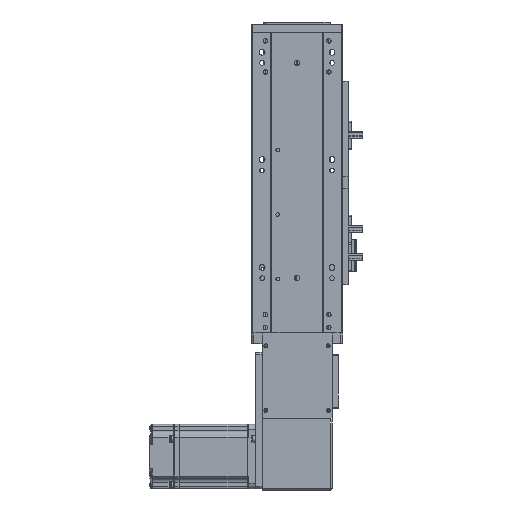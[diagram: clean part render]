
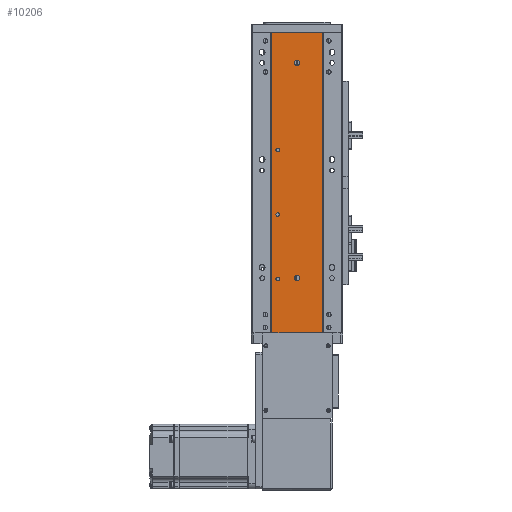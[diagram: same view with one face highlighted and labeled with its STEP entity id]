
A CAD part, front view. The second image highlights one B-rep face of the part: STEP entity #10206.
In plain terms, the highlighted planar face has unit normal (0, -1, 0).
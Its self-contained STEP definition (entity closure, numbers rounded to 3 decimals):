
#2369 = CARTESIAN_POINT ( 'NONE',  ( 0., 46.262, 279. ) ) ;
#2371 = DIRECTION ( 'NONE',  ( 1., 0., 0. ) ) ;
#2475 = CARTESIAN_POINT ( 'NONE',  ( 126.878, 46.262, 170. ) ) ;
#2484 = DIRECTION ( 'NONE',  ( 0., 0., 1. ) ) ;
#2497 = DIRECTION ( 'NONE',  ( 0., 1., 0. ) ) ;
#2539 = CARTESIAN_POINT ( 'NONE',  ( 144.878, 46.262, 251. ) ) ;
#2542 = DIRECTION ( 'NONE',  ( 0., 0., -1. ) ) ;
#2544 = DIRECTION ( 'NONE',  ( 0., -1., 0. ) ) ;
#2557 = CARTESIAN_POINT ( 'NONE',  ( 0., 46.262, 0. ) ) ;
#2593 = DIRECTION ( 'NONE',  ( 1., 0., 0. ) ) ;
#2624 = DIRECTION ( 'NONE',  ( 0., 1., 0. ) ) ;
#2626 = CARTESIAN_POINT ( 'NONE',  ( 126.878, 46.262, 110. ) ) ;
#2628 = DIRECTION ( 'NONE',  ( 0., 0., 1. ) ) ;
#2643 = DIRECTION ( 'NONE',  ( 0., 1., 0. ) ) ;
#2671 = CARTESIAN_POINT ( 'NONE',  ( 126.878, 46.262, 50. ) ) ;
#2677 = DIRECTION ( 'NONE',  ( 0., 0., 1. ) ) ;
#2694 = CARTESIAN_POINT ( 'NONE',  ( 168.171, 46.262, 279. ) ) ;
#2696 = DIRECTION ( 'NONE',  ( 0., 0., -1. ) ) ;
#2783 = DIRECTION ( 'NONE',  ( 0., -1., 0. ) ) ;
#2795 = DIRECTION ( 'NONE',  ( 0., 0., -1. ) ) ;
#2800 = CARTESIAN_POINT ( 'NONE',  ( 144.878, 46.262, 51. ) ) ;
#6717 = PLANE ( 'NONE',  #58703 ) ;
#7703 = LINE ( 'NONE', #2369, #7723 ) ;
#7723 = VECTOR ( 'NONE', #2371, 1000. ) ;
#7741 = CIRCLE ( 'NONE', #40030, 1.65 ) ;
#7795 = LINE ( 'NONE', #2557, #7825 ) ;
#7808 = CIRCLE ( 'NONE', #40034, 2.5 ) ;
#7825 = VECTOR ( 'NONE', #2593, 1000. ) ;
#7833 = CIRCLE ( 'NONE', #40094, 1.65 ) ;
#7863 = CIRCLE ( 'NONE', #40080, 1.65 ) ;
#7870 = VECTOR ( 'NONE', #2696, 1000. ) ;
#7913 = LINE ( 'NONE', #2694, #7870 ) ;
#7923 = LINE ( 'NONE', #22346, #7938 ) ;
#7938 = VECTOR ( 'NONE', #9920, 1000. ) ;
#7963 = CIRCLE ( 'NONE', #40071, 2.5 ) ;
#9920 = DIRECTION ( 'NONE',  ( 0., 0., -1. ) ) ;
#10206 = ADVANCED_FACE ( 'NONE', ( #29672, #29719, #29678, #29674, #29690, #29679 ), #6717, .F. ) ;
#17391 = DIRECTION ( 'NONE',  ( 0., 0., 1. ) ) ;
#18287 = EDGE_CURVE ( 'NONE', #45567, #45599, #31452, .T. ) ;
#18291 = EDGE_CURVE ( 'NONE', #45589, #45562, #31489, .T. ) ;
#18302 = EDGE_CURVE ( 'NONE', #45493, #45592, #31466, .T. ) ;
#18418 = EDGE_CURVE ( 'NONE', #45580, #45585, #31553, .T. ) ;
#18426 = EDGE_CURVE ( 'NONE', #45487, #45524, #31640, .T. ) ;
#20012 = EDGE_CURVE ( 'NONE', #45813, #45820, #7703, .T. ) ;
#20104 = EDGE_CURVE ( 'NONE', #45524, #45487, #7741, .T. ) ;
#20152 = EDGE_CURVE ( 'NONE', #45599, #45567, #7808, .T. ) ;
#20170 = EDGE_CURVE ( 'NONE', #45912, #45876, #7795, .T. ) ;
#20194 = EDGE_CURVE ( 'NONE', #45592, #45493, #7833, .T. ) ;
#20253 = EDGE_CURVE ( 'NONE', #45562, #45589, #7863, .T. ) ;
#20298 = EDGE_CURVE ( 'NONE', #45820, #45876, #7913, .T. ) ;
#20349 = EDGE_CURVE ( 'NONE', #45585, #45580, #7963, .T. ) ;
#20387 = EDGE_CURVE ( 'NONE', #45813, #45912, #7923, .T. ) ;
#21352 = DIRECTION ( 'NONE',  ( 0., 1., 0. ) ) ;
#22346 = CARTESIAN_POINT ( 'NONE',  ( 121.584, 46.262, 279. ) ) ;
#24764 = ORIENTED_EDGE ( 'NONE', *, *, #18291, .T. ) ;
#24807 = ORIENTED_EDGE ( 'NONE', *, *, #20387, .T. ) ;
#24812 = ORIENTED_EDGE ( 'NONE', *, *, #20349, .F. ) ;
#24823 = ORIENTED_EDGE ( 'NONE', *, *, #18287, .F. ) ;
#24826 = ORIENTED_EDGE ( 'NONE', *, *, #20152, .F. ) ;
#24833 = ORIENTED_EDGE ( 'NONE', *, *, #20298, .F. ) ;
#24834 = ORIENTED_EDGE ( 'NONE', *, *, #18418, .F. ) ;
#24839 = ORIENTED_EDGE ( 'NONE', *, *, #20170, .T. ) ;
#24840 = ORIENTED_EDGE ( 'NONE', *, *, #20253, .T. ) ;
#24852 = ORIENTED_EDGE ( 'NONE', *, *, #20012, .F. ) ;
#24854 = ORIENTED_EDGE ( 'NONE', *, *, #20194, .T. ) ;
#24859 = ORIENTED_EDGE ( 'NONE', *, *, #18426, .T. ) ;
#24862 = ORIENTED_EDGE ( 'NONE', *, *, #18302, .T. ) ;
#24898 = ORIENTED_EDGE ( 'NONE', *, *, #20104, .T. ) ;
#25075 = DIRECTION ( 'NONE',  ( 0., 0., 1. ) ) ;
#25082 = DIRECTION ( 'NONE',  ( 0., 1., 0. ) ) ;
#25089 = CARTESIAN_POINT ( 'NONE',  ( 126.878, 46.262, 110. ) ) ;
#25248 = DIRECTION ( 'NONE',  ( 0., 0., -1. ) ) ;
#25251 = CARTESIAN_POINT ( 'NONE',  ( 126.878, 46.262, 170. ) ) ;
#25268 = DIRECTION ( 'NONE',  ( 0., -1., 0. ) ) ;
#25272 = DIRECTION ( 'NONE',  ( 0., 0., 1. ) ) ;
#25278 = CARTESIAN_POINT ( 'NONE',  ( 144.878, 46.262, 51. ) ) ;
#25280 = DIRECTION ( 'NONE',  ( 0., 1., 0. ) ) ;
#29672 = FACE_BOUND ( 'NONE', #33943, .T. ) ;
#29674 = FACE_BOUND ( 'NONE', #33967, .T. ) ;
#29678 = FACE_BOUND ( 'NONE', #33953, .T. ) ;
#29679 = FACE_OUTER_BOUND ( 'NONE', #33970, .T. ) ;
#29690 = FACE_BOUND ( 'NONE', #33968, .T. ) ;
#29719 = FACE_BOUND ( 'NONE', #33952, .T. ) ;
#31452 = CIRCLE ( 'NONE', #39818, 2.5 ) ;
#31466 = CIRCLE ( 'NONE', #39869, 1.65 ) ;
#31489 = CIRCLE ( 'NONE', #39842, 1.65 ) ;
#31553 = CIRCLE ( 'NONE', #39871, 2.5 ) ;
#31640 = CIRCLE ( 'NONE', #39841, 1.65 ) ;
#33943 = EDGE_LOOP ( 'NONE', ( #24898, #24859 ) ) ;
#33952 = EDGE_LOOP ( 'NONE', ( #24854, #24862 ) ) ;
#33953 = EDGE_LOOP ( 'NONE', ( #24840, #24764 ) ) ;
#33967 = EDGE_LOOP ( 'NONE', ( #24812, #24834 ) ) ;
#33968 = EDGE_LOOP ( 'NONE', ( #24826, #24823 ) ) ;
#33970 = EDGE_LOOP ( 'NONE', ( #24839, #24833, #24852, #24807 ) ) ;
#39818 = AXIS2_PLACEMENT_3D ( 'NONE', #56637, #56623, #56630 ) ;
#39841 = AXIS2_PLACEMENT_3D ( 'NONE', #25251, #25280, #25272 ) ;
#39842 = AXIS2_PLACEMENT_3D ( 'NONE', #56607, #56625, #56628 ) ;
#39869 = AXIS2_PLACEMENT_3D ( 'NONE', #25089, #25082, #25075 ) ;
#39871 = AXIS2_PLACEMENT_3D ( 'NONE', #25278, #25268, #25248 ) ;
#40030 = AXIS2_PLACEMENT_3D ( 'NONE', #2475, #2497, #2484 ) ;
#40034 = AXIS2_PLACEMENT_3D ( 'NONE', #2539, #2544, #2542 ) ;
#40071 = AXIS2_PLACEMENT_3D ( 'NONE', #2800, #2783, #2795 ) ;
#40080 = AXIS2_PLACEMENT_3D ( 'NONE', #2671, #2643, #2677 ) ;
#40094 = AXIS2_PLACEMENT_3D ( 'NONE', #2626, #2624, #2628 ) ;
#45487 = VERTEX_POINT ( 'NONE', #54044 ) ;
#45493 = VERTEX_POINT ( 'NONE', #54085 ) ;
#45524 = VERTEX_POINT ( 'NONE', #54108 ) ;
#45562 = VERTEX_POINT ( 'NONE', #54198 ) ;
#45567 = VERTEX_POINT ( 'NONE', #54181 ) ;
#45580 = VERTEX_POINT ( 'NONE', #54203 ) ;
#45585 = VERTEX_POINT ( 'NONE', #54250 ) ;
#45589 = VERTEX_POINT ( 'NONE', #54213 ) ;
#45592 = VERTEX_POINT ( 'NONE', #54218 ) ;
#45599 = VERTEX_POINT ( 'NONE', #54274 ) ;
#45813 = VERTEX_POINT ( 'NONE', #54673 ) ;
#45820 = VERTEX_POINT ( 'NONE', #54634 ) ;
#45876 = VERTEX_POINT ( 'NONE', #54863 ) ;
#45912 = VERTEX_POINT ( 'NONE', #54853 ) ;
#54044 = CARTESIAN_POINT ( 'NONE',  ( 126.878, 46.262, 168.35 ) ) ;
#54085 = CARTESIAN_POINT ( 'NONE',  ( 126.878, 46.262, 108.35 ) ) ;
#54108 = CARTESIAN_POINT ( 'NONE',  ( 126.878, 46.262, 171.65 ) ) ;
#54181 = CARTESIAN_POINT ( 'NONE',  ( 144.878, 46.262, 253.5 ) ) ;
#54198 = CARTESIAN_POINT ( 'NONE',  ( 126.878, 46.262, 51.65 ) ) ;
#54203 = CARTESIAN_POINT ( 'NONE',  ( 144.878, 46.262, 53.5 ) ) ;
#54213 = CARTESIAN_POINT ( 'NONE',  ( 126.878, 46.262, 48.35 ) ) ;
#54218 = CARTESIAN_POINT ( 'NONE',  ( 126.878, 46.262, 111.65 ) ) ;
#54250 = CARTESIAN_POINT ( 'NONE',  ( 144.878, 46.262, 48.5 ) ) ;
#54274 = CARTESIAN_POINT ( 'NONE',  ( 144.878, 46.262, 248.5 ) ) ;
#54634 = CARTESIAN_POINT ( 'NONE',  ( 168.171, 46.262, 279. ) ) ;
#54673 = CARTESIAN_POINT ( 'NONE',  ( 121.584, 46.262, 279. ) ) ;
#54853 = CARTESIAN_POINT ( 'NONE',  ( 121.584, 46.262, 0. ) ) ;
#54863 = CARTESIAN_POINT ( 'NONE',  ( 168.171, 46.262, 0. ) ) ;
#56607 = CARTESIAN_POINT ( 'NONE',  ( 126.878, 46.262, 50. ) ) ;
#56623 = DIRECTION ( 'NONE',  ( 0., -1., 0. ) ) ;
#56625 = DIRECTION ( 'NONE',  ( 0., 1., 0. ) ) ;
#56628 = DIRECTION ( 'NONE',  ( 0., 0., 1. ) ) ;
#56630 = DIRECTION ( 'NONE',  ( 0., 0., -1. ) ) ;
#56637 = CARTESIAN_POINT ( 'NONE',  ( 144.878, 46.262, 251. ) ) ;
#58703 = AXIS2_PLACEMENT_3D ( 'NONE', #64784, #21352, #17391 ) ;
#64784 = CARTESIAN_POINT ( 'NONE',  ( 0., 46.262, 279. ) ) ;
